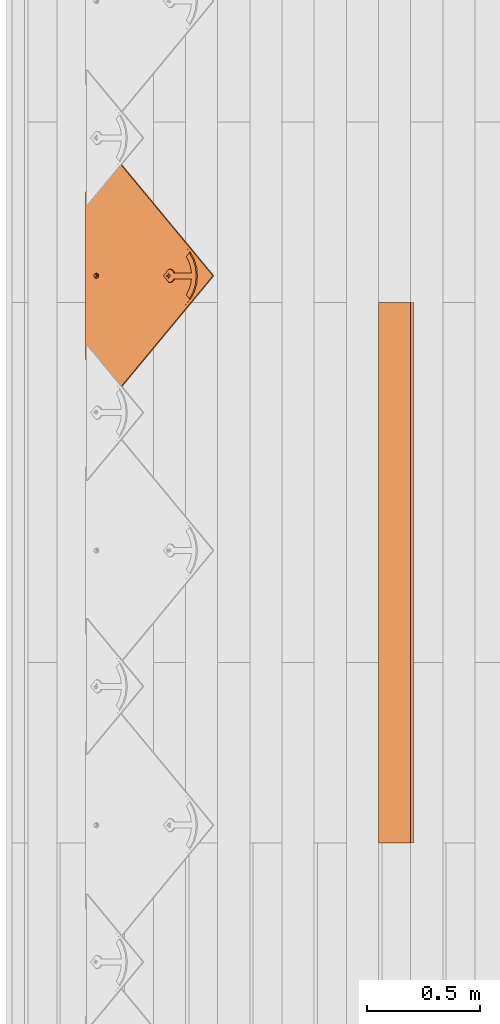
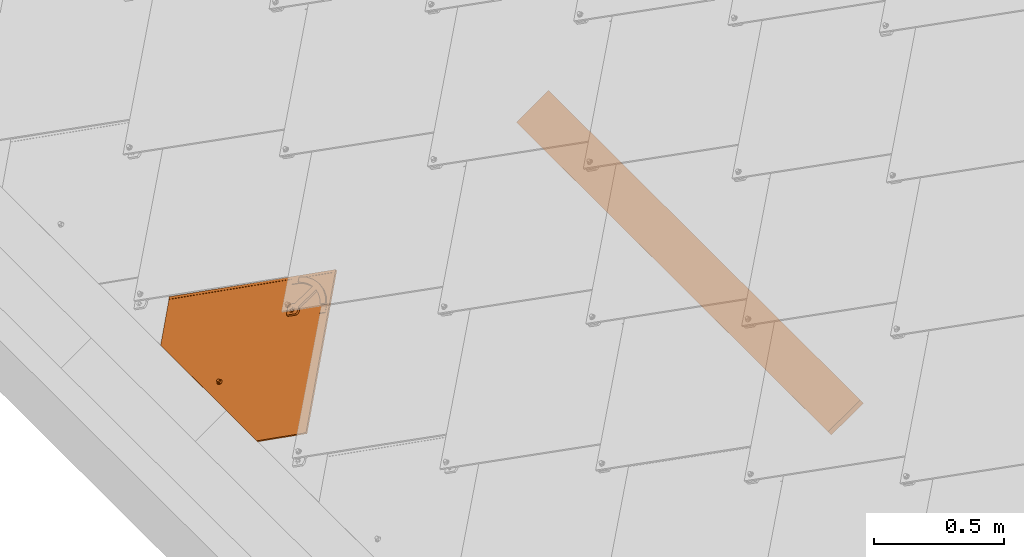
# One storey, part 26 of 133: 2 proxies, 1 element without a shape of its own.
"""IFC2X3 building model written with IfcOpenShell, lengths in millimetres."""

from ifc_helpers import new_model, entity, si_unit, converted_unit, derived_unit, direction, frame, frame_2d, origin, place, context, subcontext, project, spatial, rectangle, extrude, faceted_brep, source, transform, mapped, material, material_list, type_object, type_shapes, element, aggregate, save


model = new_model("IFC2X3")

# Units and contexts
model_context = context("Model", 3, precision=0.01, world=origin(), true_north=direction((6.12303176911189e-17, 1.0)))
body_context = subcontext(model_context, "Body", "Model", "MODEL_VIEW")
ifc_project = project(units=[si_unit("LENGTHUNIT", "METRE", prefix="MILLI"), si_unit("AREAUNIT", "SQUARE_METRE"), si_unit("VOLUMEUNIT", "CUBIC_METRE"), converted_unit("PLANEANGLEUNIT", "DEGREE", entity("IfcRatioMeasure", 0.0174532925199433), si_unit("PLANEANGLEUNIT", "RADIAN"), dimensions=[0, 0, 0, 0, 0, 0, 0]), si_unit("MASSUNIT", "GRAM", prefix="KILO"), derived_unit("MASSDENSITYUNIT", [(si_unit("MASSUNIT", "GRAM", prefix="KILO"), 1), (si_unit("LENGTHUNIT", "METRE"), -3)]), si_unit("TIMEUNIT", "SECOND"), si_unit("FREQUENCYUNIT", "HERTZ"), si_unit("THERMODYNAMICTEMPERATUREUNIT", "DEGREE_CELSIUS"), derived_unit("THERMALTRANSMITTANCEUNIT", [(si_unit("MASSUNIT", "GRAM", prefix="KILO"), 1), (si_unit("THERMODYNAMICTEMPERATUREUNIT", "KELVIN"), -1), (si_unit("TIMEUNIT", "SECOND"), -3)]), derived_unit("VOLUMETRICFLOWRATEUNIT", [(si_unit("LENGTHUNIT", "METRE"), 3), (si_unit("TIMEUNIT", "SECOND"), -1)]), si_unit("ELECTRICCURRENTUNIT", "AMPERE"), si_unit("ELECTRICVOLTAGEUNIT", "VOLT"), si_unit("POWERUNIT", "WATT"), si_unit("FORCEUNIT", "NEWTON", prefix="KILO"), si_unit("ILLUMINANCEUNIT", "LUX"), si_unit("LUMINOUSFLUXUNIT", "LUMEN"), si_unit("LUMINOUSINTENSITYUNIT", "CANDELA"), derived_unit("USERDEFINED", [(si_unit("MASSUNIT", "GRAM", prefix="KILO"), -1), (si_unit("LENGTHUNIT", "METRE"), -2), (si_unit("TIMEUNIT", "SECOND"), 3), (si_unit("LUMINOUSFLUXUNIT", "LUMEN"), 1)]), derived_unit("LINEARVELOCITYUNIT", [(si_unit("LENGTHUNIT", "METRE"), 1), (si_unit("TIMEUNIT", "SECOND"), -1)]), si_unit("PRESSUREUNIT", "PASCAL"), derived_unit("USERDEFINED", [(si_unit("LENGTHUNIT", "METRE"), -2), (si_unit("MASSUNIT", "GRAM", prefix="KILO"), 1), (si_unit("TIMEUNIT", "SECOND"), -2)])], contexts=[model_context])

# Site, building, storey
site_placement = place(None, origin())
site = spatial("IfcSite", under=ifc_project, at=site_placement, Name="Default", CompositionType="ELEMENT")
building_placement = place(site_placement, origin())
building = spatial("IfcBuilding", under=site, at=building_placement, CompositionType="ELEMENT")
storey_placement = place(building_placement, origin())
storey = spatial("IfcBuildingStorey", under=building, at=storey_placement, Name="Level 1", CompositionType="ELEMENT", Elevation=0.0)

# Assembly, proxy
assembly_placement = place(storey_placement, origin())
assembly = element("IfcElementAssembly", 1, at=assembly_placement, inside=storey, Name="Structural Framing Assembly:Roof Construction Assembly", ObjectType="Structural Framing Assembly:Roof Construction Assembly", AssemblyPlace="NOTDEFINED", PredefinedType="USERDEFINED")
ifc_material_1 = material(Name="Wood - Generic - Wood For Showcase")
building_element_proxy_type_1 = type_object("IfcBuildingElementProxyType", Name="Structural Framing 15", PredefinedType="NOTDEFINED", material=ifc_material_1)
shared_shape_1 = source(origin(), body_context, "Body", "SweptSolid", [
    extrude(rectangle(XDim=24.9999999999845, YDim=174.344679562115, at=frame_2d((-1.77635683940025e-13, -4.54747350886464e-13), x_axis=(0.0, 1.0))), frame((1128.20180147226, 1595.55080214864, 2760.23940055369), z_axis=(0.0, 1.0, 0.0), x_axis=(-0.819152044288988, 0.0, -0.573576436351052)), (0.0, 0.0, 1.0), 2400.00000000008),
])
type_shapes(building_element_proxy_type_1, [shared_shape_1])
proxy_1_placement = place(assembly_placement, frame((-2142.22201011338, -5740.0, -1500.0)))
proxy_1 = element("IfcBuildingElementProxy", 2, at=proxy_1_placement, type_object=building_element_proxy_type_1, material=ifc_material_1, Name="Structural Framing 92:Structural Framing 15", ObjectType="Structural Framing 92:Structural Framing 15", context=body_context, shape_type="MappedRepresentation", body=[
    mapped(shared_shape_1, transform((0.0, 0.0, 0.0), scale=1.0)),
])
aggregate(assembly, [proxy_1])

# Proxy
ifc_material_2 = material(Name="Rubber - Sunstyle - Black")
ifc_material_3 = material(Name="Glass - Sunstyle - Tainted Black")
ifc_material_list_1 = material_list([ifc_material_2, ifc_material_3])
ifc_material_list_2 = material_list([ifc_material_2, ifc_material_3])
building_element_proxy_type_2 = type_object("IfcBuildingElementProxyType", Name="Shingle Bottom - Black", PredefinedType="NOTDEFINED", material=ifc_material_list_2)
shared_shape_2 = source(origin(), body_context, "Body", "Brep", [
    faceted_brep([(0.0, -1.79273515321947, -4.01619789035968), (-5.7742028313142, -5.12600528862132, -3.96037390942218), (-5.77420283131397, -4.75769619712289, 18.0314954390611), (0.0, -1.42442606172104, 17.9756714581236), (-5.77420283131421, -11.792545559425, -3.84872594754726), (-5.77420283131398, -11.4242364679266, 18.143143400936), (0.0, -15.1258156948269, -3.79290196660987), (0.0, -14.7575066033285, 18.1989673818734), (5.77420283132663, -11.7925455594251, -3.84872594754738), (5.77420283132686, -11.4242364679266, 18.1431434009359), (5.77420283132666, -5.12600528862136, -3.96037390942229), (5.77420283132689, -4.75769619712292, 18.031495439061), (-8.60370416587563, -16.6934641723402, 18.2313898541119), (0.0, -20.2567354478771, 18.2910657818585), (-12.1674751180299, -8.09096633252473, 18.0873194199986), (-8.60370416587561, 0.511531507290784, 17.9432489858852), (0.0, 4.07480278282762, 17.8835730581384), (8.60370416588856, 0.511531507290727, 17.9432489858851), (12.1674751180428, -8.09096633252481, 18.0873194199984), (8.60370416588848, -16.6934641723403, 18.2313898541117), (-11.4302228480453, -6.71737066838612, 20.4858706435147), (-9.77051349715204, -8.02009729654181, 22.3189355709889), (0.0, -0.706876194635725, 22.9603444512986), (0.0, 0.533621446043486, 22.3799978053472), (0.0, 2.69117229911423, 21.3706227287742), (-6.32324569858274, -4.35709193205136, 23.021476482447), (-6.32324569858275, -11.6575234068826, 23.1437405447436), (0.0, -18.7571148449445, 21.7298281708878), (0.0, -15.3077391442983, 23.2048725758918), (10.9851748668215, -11.808022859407, 20.3827540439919), (10.123850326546, -8.02413622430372, 22.0777687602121), (6.32324569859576, -4.3570919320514, 23.0214764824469), (6.32324569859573, -11.6575234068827, 23.1437405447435), (-6.32324569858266, -11.5234949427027, 31.146628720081), (0.0, -15.1737106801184, 31.2077607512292), (0.0, -7.8732792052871, 31.0854966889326), (-6.32324569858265, -4.22306346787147, 31.0243646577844), (6.32324569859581, -11.5234949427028, 31.1466287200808), (6.32324569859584, -4.22306346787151, 31.0243646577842), (0.0, -0.57284773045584, 30.963232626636), (0.0, -8.45927542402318, -3.90454992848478)], [[[0, 1, 2, 3]], [[1, 4, 5, 2]], [[4, 6, 7, 5]], [[6, 8, 9, 7]], [[8, 10, 11, 9]], [[10, 0, 3, 11]], [[12, 7, 13]], [[7, 12, 5]], [[14, 5, 12]], [[5, 14, 2]], [[15, 2, 14]], [[3, 2, 15]], [[15, 16, 3]], [[16, 17, 3]], [[11, 3, 17]], [[11, 17, 18]], [[9, 11, 18]], [[18, 19, 9]], [[7, 9, 19]], [[19, 13, 7]], [[15, 20, 16]], [[21, 22, 23, 24]], [[22, 21, 25]], [[20, 14, 12]], [[15, 14, 20]], [[25, 21, 26]], [[20, 24, 16]], [[12, 13, 27]], [[12, 27, 20]], [[21, 28, 26]], [[21, 27, 28]], [[20, 21, 24]], [[20, 27, 21]], [[19, 29, 13]], [[30, 23, 31]], [[30, 28, 27]], [[24, 23, 30]], [[29, 27, 13]], [[19, 18, 29]], [[29, 30, 27]], [[29, 17, 24]], [[24, 17, 16]], [[31, 32, 30]], [[23, 22, 31]], [[28, 30, 32]], [[29, 24, 30]], [[29, 18, 17]], [[33, 34, 35]], [[35, 36, 33]], [[34, 37, 35]], [[38, 35, 37]], [[35, 38, 39]], [[35, 39, 36]], [[40, 6, 4]], [[4, 1, 40]], [[1, 0, 40]], [[40, 8, 6]], [[0, 10, 40]], [[8, 40, 10]], [[22, 25, 36, 39]], [[25, 26, 33, 36]], [[26, 28, 34, 33]], [[28, 32, 37, 34]], [[32, 31, 38, 37]], [[31, 22, 39, 38]]]),
    faceted_brep([(0.0, 372.824876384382, 20.3195200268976), (0.0, 377.324245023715, 20.2441667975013), (-8.60370416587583, 376.388147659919, 20.2598440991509), (8.60370416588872, 376.388147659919, 20.2598440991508), (6.64022859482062, 381.157445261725, 20.1799702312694), (12.1674751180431, 384.990645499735, 20.1157736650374), (6.64022859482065, 388.823845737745, 20.0515770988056), (8.6037041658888, 393.59314333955, 19.9717032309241), (0.0, 392.657045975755, 19.9873805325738), (0.0, 397.156414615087, 19.9120273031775), (-8.60370416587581, 393.59314333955, 19.9717032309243), (-6.64022859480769, 388.823845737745, 20.0515770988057), (-12.1674751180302, 384.990645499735, 20.1157736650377), (-6.6402285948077, 381.157445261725, 20.1799702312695), (-6.6402282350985, 388.555922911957, 4.05382046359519), (0.0, 392.389122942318, 3.98962390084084), (-6.64022823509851, 380.889522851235, 4.18221358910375), (0.0, 377.056322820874, 4.24641015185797), (6.64022823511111, 380.889522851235, 4.18221358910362), (6.64022823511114, 388.555922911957, 4.05382046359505), (-8.603704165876, 376.12022504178, 4.26208746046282), (0.0, 372.556953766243, 4.32176338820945), (-12.1674751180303, 384.722722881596, 4.11801702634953), (-8.60370416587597, 393.325220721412, 3.97394659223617), (0.0, 396.888491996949, 3.91427066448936), (8.60370416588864, 393.325220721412, 3.97394659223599), (12.1674751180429, 384.722722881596, 4.11801702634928), (8.60370416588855, 376.12022504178, 4.26208746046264)], [[[0, 1, 2]], [[1, 0, 3]], [[3, 4, 1]], [[4, 3, 5]], [[6, 4, 5]], [[5, 7, 6]], [[7, 8, 6]], [[8, 7, 9]], [[8, 9, 10]], [[10, 11, 8]], [[12, 11, 10]], [[2, 13, 12]], [[12, 13, 11]], [[13, 2, 1]], [[8, 11, 14, 15]], [[11, 13, 16, 14]], [[13, 1, 17, 16]], [[1, 4, 18, 17]], [[4, 6, 19, 18]], [[6, 8, 15, 19]], [[20, 17, 21]], [[17, 20, 16]], [[22, 16, 20]], [[14, 16, 22]], [[23, 14, 22]], [[15, 14, 23]], [[23, 24, 15]], [[24, 25, 15]], [[19, 15, 25]], [[19, 25, 26]], [[26, 18, 19]], [[26, 27, 18]], [[17, 18, 27]], [[27, 21, 17]], [[24, 23, 10, 9]], [[10, 23, 22, 12]], [[20, 21, 0, 2]], [[20, 2, 12, 22]], [[21, 27, 3, 0]], [[3, 27, 26, 5]], [[25, 24, 9, 7]], [[25, 7, 5, 26]]]),
    faceted_brep([(518.247351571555, 79.9143812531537, 14.965257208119), (526.732038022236, 88.3990677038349, 14.8231598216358), (526.732038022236, 88.4241854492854, 16.3229495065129), (518.247351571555, 79.9394989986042, 16.4650468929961), (0.000322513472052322, 598.016093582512, 6.28834266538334), (-518.246706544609, 79.9143812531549, 14.9652572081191), (-526.73139299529, 88.3990677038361, 14.8231598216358), (0.000322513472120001, 614.983087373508, 6.00418773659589), (0.000322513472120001, 615.008205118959, 7.50397742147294), (-526.731392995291, 88.4241854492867, 16.3229495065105), (-518.246706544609, 79.9394989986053, 16.465046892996), (0.000322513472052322, 598.041211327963, 7.78813235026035)], [[[0, 1, 2, 3]], [[1, 0, 4, 5, 6, 7]], [[2, 1, 7, 8]], [[3, 2, 8, 9, 10, 11]], [[0, 3, 11, 4]], [[5, 10, 9, 6]], [[8, 7, 6, 9]], [[4, 11, 10, 5]]]),
    faceted_brep([(0.00032251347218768, 614.983087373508, 6.00418773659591), (-2.87802047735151, 396.187349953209, 9.66847193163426), (0.227808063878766, 396.596182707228, 9.6616250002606), (-5.77219193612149, 394.988712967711, 9.68854611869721), (3.3336366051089, 396.187349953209, 9.66847193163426), (6.22780806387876, 394.988712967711, 9.6885461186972), (8.71308943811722, 393.081956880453, 9.72047953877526), (10.620112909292, 390.59702396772, 9.76209598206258), (-8.25747331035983, 393.081956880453, 9.72047953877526), (-10.1644967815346, 390.59702396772, 9.76209598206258), (-11.3633018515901, 387.703258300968, 9.81055935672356), (-526.731392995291, 88.3990677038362, 14.8231598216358), (11.8189179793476, 387.703258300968, 9.81055935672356), (526.732038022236, 88.3990677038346, 14.8231598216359), (-11.7721919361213, 384.597865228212, 9.86256696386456), (-11.3633018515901, 381.492472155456, 9.91457457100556), (-10.1644967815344, 378.598706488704, 9.96303794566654), (-370.355016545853, -67.9334607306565, 17.4413406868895), (-8.25747331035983, 376.113773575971, 10.0046543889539), (-5.65685424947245, -2.29422365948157, 16.3420467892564), (-6.92820323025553, -3.95084560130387, 16.3697910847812), (-7.72740661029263, -5.88002271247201, 16.4021000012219), (-8.0, -7.95028476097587, 16.4367717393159), (-7.72740661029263, -10.0205468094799, 16.4714434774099), (-6.9282032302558, -11.9497239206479, 16.5037523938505), (-5.65685424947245, -13.6063458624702, 16.5314966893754), (-4.0, -14.8775165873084, 16.5527856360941), (-2.07055236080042, -15.676607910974, 16.5661684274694), (0.0, -15.9491630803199, 16.5707330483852), (370.355661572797, -67.9334607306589, 17.4413406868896), (10.620112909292, 378.598706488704, 9.96303794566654), (8.71308943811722, 376.11377357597, 10.0046543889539), (5.65685424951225, -2.29422365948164, 16.3420467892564), (6.92820323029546, -3.9508456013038, 16.3697910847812), (7.72740661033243, -5.88002271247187, 16.4021000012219), (8.0, -7.9502847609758, 16.4367717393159), (7.72740661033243, -10.0205468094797, 16.4714434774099), (6.92820323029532, -11.9497239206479, 16.5037523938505), (5.65685424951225, -13.6063458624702, 16.5314966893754), (4.0, -14.8775165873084, 16.5527856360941), (2.07055236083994, -15.676607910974, 16.5661684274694), (-5.77219193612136, 374.207017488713, 10.0365878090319), (-4.0, -1.02305293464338, 16.3207578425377), (-2.87802047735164, 373.008380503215, 10.0566619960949), (-2.07055236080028, -0.223961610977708, 16.3073750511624), (0.227808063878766, 372.599547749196, 10.0635089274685), (0.0, 0.0485935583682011, 16.3028104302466), (2.07055236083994, -0.223961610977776, 16.3073750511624), (3.3336366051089, 373.008380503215, 10.0566619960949), (4.0, -1.02305293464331, 16.3207578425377), (6.22780806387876, 374.207017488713, 10.0365878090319), (12.2278080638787, 384.597865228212, 9.86256696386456), (11.8189179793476, 381.492472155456, 9.91457457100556), (-370.355016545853, -68.059049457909, 9.94239226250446), (-6.92820323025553, -4.07643432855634, 8.87084266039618), (-7.72740661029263, -6.00561143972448, 8.90315157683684), (-8.0, -8.07587348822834, 8.93782331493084), (-7.72740661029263, -10.1461355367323, 8.97249505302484), (-6.9282032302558, -12.0753126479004, 9.00480396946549), (-5.65685424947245, -13.7319345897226, 9.03254826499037), (-5.65685424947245, -2.41981238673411, 8.8430983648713), (-8.25747331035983, 375.988184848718, 2.50570596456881), (-4.0, -15.0031053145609, 9.05383721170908), (-2.07055236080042, -15.8021966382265, 9.06722000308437), (0.0, -16.0747518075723, 9.07178462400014), (370.355661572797, -68.0590494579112, 9.9423922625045), (-10.1644967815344, 378.473117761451, 2.46408952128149), (-526.731392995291, 88.2734789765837, 7.32421139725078), (-11.3633018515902, 381.366883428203, 2.41562614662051), (-11.7721919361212, 384.472276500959, 2.36361853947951), (-11.3633018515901, 387.577669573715, 2.3116109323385), (0.00032251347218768, 614.857498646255, -1.49476068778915), (-10.1644967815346, 390.471435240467, 2.26314755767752), (-8.25747331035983, 392.956368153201, 2.22153111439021), (-5.77219193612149, 394.863124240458, 2.18959769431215), (-2.87802047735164, 396.061761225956, 2.16952350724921), (0.227808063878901, 396.470593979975, 2.16267657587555), (3.3336366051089, 396.061761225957, 2.1695235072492), (6.22780806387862, 394.863124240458, 2.18959769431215), (8.71308943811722, 392.956368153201, 2.2215311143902), (10.620112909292, 390.471435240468, 2.26314755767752), (11.8189179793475, 387.577669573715, 2.31161093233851), (526.732038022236, 88.2734789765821, 7.32421139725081), (12.2278080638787, 384.472276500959, 2.3636185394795), (10.620112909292, 378.473117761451, 2.46408952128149), (11.8189179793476, 381.366883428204, 2.41562614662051), (-5.77219193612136, 374.08142876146, 2.53763938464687), (-4.0, -1.14864166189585, 8.8218094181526), (-2.87802047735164, 372.882791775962, 2.55771357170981), (-2.07055236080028, -0.349550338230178, 8.8084266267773), (0.227808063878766, 372.473959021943, 2.56456050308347), (0.0, -0.0769951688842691, 8.80386200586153), (2.07055236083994, -0.349550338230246, 8.8084266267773), (3.3336366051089, 372.882791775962, 2.55771357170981), (4.0, -1.14864166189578, 8.8218094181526), (6.22780806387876, 374.081428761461, 2.53763938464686), (5.65685424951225, -2.41981238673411, 8.8430983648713), (8.71308943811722, 375.988184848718, 2.50570596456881), (6.92820323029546, -4.07643432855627, 8.87084266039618), (7.72740661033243, -6.00561143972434, 8.90315157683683), (8.0, -8.07587348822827, 8.93782331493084), (7.72740661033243, -10.1461355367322, 8.97249505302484), (6.92820323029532, -12.0753126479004, 9.00480396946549), (5.65685424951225, -13.7319345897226, 9.03254826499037), (4.0, -15.0031053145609, 9.05383721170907), (2.07055236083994, -15.8021966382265, 9.06722000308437)], [[[0, 1, 2]], [[1, 0, 3]], [[0, 2, 4]], [[4, 5, 0]], [[5, 6, 0]], [[0, 6, 7]], [[8, 3, 0]], [[9, 8, 0]], [[9, 0, 10]], [[10, 0, 11]], [[12, 0, 7]], [[12, 13, 0]], [[11, 14, 10]], [[14, 11, 15]], [[16, 15, 11]], [[11, 17, 16]], [[16, 17, 18]], [[19, 18, 17]], [[19, 17, 20]], [[20, 17, 21]], [[22, 21, 17]], [[22, 17, 23]], [[24, 23, 17]], [[17, 25, 24]], [[26, 25, 17]], [[27, 26, 17]], [[17, 28, 27]], [[28, 17, 29]], [[29, 13, 30]], [[29, 30, 31]], [[29, 31, 32]], [[32, 33, 29]], [[33, 34, 29]], [[35, 29, 34]], [[29, 35, 36]], [[36, 37, 29]], [[29, 37, 38]], [[38, 39, 29]], [[40, 28, 29]], [[39, 40, 29]], [[41, 18, 19]], [[42, 41, 19]], [[42, 43, 41]], [[44, 43, 42]], [[44, 45, 43]], [[46, 45, 44]], [[47, 45, 46]], [[48, 45, 47]], [[49, 48, 47]], [[49, 50, 48]], [[32, 50, 49]], [[32, 31, 50]], [[12, 51, 13]], [[52, 13, 51]], [[13, 52, 30]], [[53, 54, 55]], [[53, 55, 56]], [[56, 57, 53]], [[57, 58, 53]], [[53, 58, 59]], [[60, 54, 53]], [[61, 60, 53]], [[59, 62, 53]], [[62, 63, 53]], [[63, 64, 53]], [[53, 64, 65]], [[66, 61, 53]], [[66, 53, 67]], [[68, 66, 67]], [[69, 68, 67]], [[69, 67, 70]], [[67, 71, 70]], [[72, 70, 71]], [[73, 72, 71]], [[71, 74, 73]], [[74, 71, 75]], [[75, 71, 76]], [[77, 76, 71]], [[77, 71, 78]], [[79, 78, 71]], [[71, 80, 79]], [[80, 71, 81]], [[71, 82, 81]], [[83, 81, 82]], [[84, 82, 65]], [[85, 82, 84]], [[82, 85, 83]], [[86, 60, 61]], [[86, 87, 60]], [[88, 87, 86]], [[89, 87, 88]], [[90, 89, 88]], [[90, 91, 89]], [[92, 91, 90]], [[92, 90, 93]], [[94, 92, 93]], [[93, 95, 94]], [[94, 95, 96]], [[97, 96, 95]], [[96, 97, 65]], [[84, 65, 97]], [[98, 96, 65]], [[99, 98, 65]], [[99, 65, 100]], [[101, 100, 65]], [[102, 101, 65]], [[103, 102, 65]], [[104, 103, 65]], [[105, 104, 65]], [[65, 64, 105]], [[11, 0, 71, 67]], [[17, 11, 67, 53]], [[13, 29, 65, 82]], [[0, 13, 82, 71]], [[22, 56, 55, 21]], [[21, 55, 54, 20]], [[42, 19, 60, 87]], [[60, 19, 20, 54]], [[44, 42, 87, 89]], [[44, 89, 91, 46]], [[46, 91, 92, 47]], [[47, 92, 94, 49]], [[33, 32, 96, 98]], [[96, 32, 49, 94]], [[34, 33, 98, 99]], [[34, 99, 100, 35]], [[35, 100, 101, 36]], [[36, 101, 102, 37]], [[39, 38, 103, 104]], [[103, 38, 37, 102]], [[40, 39, 104, 105]], [[40, 105, 64, 28]], [[28, 64, 63, 27]], [[27, 63, 62, 26]], [[24, 25, 59, 58]], [[59, 25, 26, 62]], [[23, 24, 58, 57]], [[23, 57, 56, 22]], [[14, 69, 70, 10]], [[10, 70, 72, 9]], [[3, 8, 73, 74]], [[73, 8, 9, 72]], [[1, 3, 74, 75]], [[1, 75, 76, 2]], [[2, 76, 77, 4]], [[4, 77, 78, 5]], [[7, 6, 79, 80]], [[79, 6, 5, 78]], [[12, 7, 80, 81]], [[12, 81, 83, 51]], [[51, 83, 85, 52]], [[52, 85, 84, 30]], [[50, 31, 97, 95]], [[97, 31, 30, 84]], [[48, 50, 95, 93]], [[48, 93, 90, 45]], [[45, 90, 88, 43]], [[43, 88, 86, 41]], [[16, 18, 61, 66]], [[41, 86, 61, 18]], [[68, 15, 16, 66]], [[15, 68, 69, 14]], [[29, 17, 53, 65]]]),
    faceted_brep([(-111.269043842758, 451.472531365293, 11.2429332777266), (-84.9443960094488, 477.793488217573, 10.8021227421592), (-102.027571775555, 494.874268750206, 10.5160621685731), (-108.279973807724, 489.512620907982, 10.6058564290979), (-114.2509690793, 483.839345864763, 10.7008696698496), (-128.946713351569, 469.147722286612, 10.9469178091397), (128.946713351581, 469.147722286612, 10.9469178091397), (114.250969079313, 483.839345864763, 10.7008696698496), (108.279973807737, 489.512620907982, 10.6058564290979), (102.027571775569, 494.874268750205, 10.5160621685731), (84.9431983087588, 477.794685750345, 10.802102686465), (111.269043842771, 451.472531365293, 11.2429332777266), (-8.48528137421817, 393.302959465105, 19.7181805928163), (-18.7041061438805, 407.484939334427, 19.4806677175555), (-23.2046504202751, 402.851933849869, 19.5582590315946), (-10.3923048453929, 390.818026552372, 19.7597970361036), (-6.0, 395.209715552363, 19.6862471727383), (-13.2999999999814, 411.02298750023, 19.4214142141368), (-3.10582854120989, 396.408352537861, 19.6661729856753), (0.0, 396.81718529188, 19.6593260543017), (13.3000000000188, 411.022987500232, 19.4214142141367), (3.10582854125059, 396.408352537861, 19.6661729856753), (6.0, 395.209715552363, 19.6862471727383), (18.7041061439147, 407.484939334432, 19.4806677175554), (8.48528137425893, 393.302959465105, 19.7181805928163), (23.2046504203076, 402.85193384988, 19.5582590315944), (10.3923048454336, 390.818026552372, 19.7597970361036), (26.5842195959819, 397.347783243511, 19.6504398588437), (11.5911099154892, 387.92426088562, 19.8082604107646), (28.6795527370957, 391.238383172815, 19.752757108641), (12.0, 384.818867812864, 19.8602680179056), (29.3894280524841, 384.818867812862, 19.8602680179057), (11.5911099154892, 381.713474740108, 19.9122756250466), (10.3923048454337, 378.819709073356, 19.9607389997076), (8.48528137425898, 376.334776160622, 20.0023554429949), (0.0, 355.433560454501, 20.3523987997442), (6.0, 374.428020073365, 20.034288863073), (3.10582854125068, 373.229383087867, 20.0543630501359), (0.0, 372.820550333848, 20.0612099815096), (-3.10582854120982, 373.229383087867, 20.0543630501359), (-6.0, 374.428020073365, 20.034288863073), (-8.48528137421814, 376.334776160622, 20.0023554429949), (-29.3894280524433, 384.818867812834, 19.8602680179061), (-10.3923048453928, 378.819709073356, 19.9607389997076), (-11.5911099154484, 381.713474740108, 19.9122756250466), (-12.0, 384.818867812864, 19.8602680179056), (-28.67955273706, 391.238383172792, 19.7527571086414), (-11.5911099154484, 387.92426088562, 19.8082604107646), (-26.5842195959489, 397.347783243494, 19.650439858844), (-13.2999999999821, 505.810987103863, 17.833951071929), (13.3000000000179, 505.810987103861, 17.833951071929), (0.0, 531.282600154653, 17.4073649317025), (36.4908407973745, 527.108634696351, 17.4772684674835), (38.7697427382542, 500.996106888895, 17.9145883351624), (71.096085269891, 514.802420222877, 17.6833669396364), (62.9243331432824, 491.592473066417, 18.0720758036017), (102.027571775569, 494.999857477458, 18.0150105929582), (84.9443960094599, 477.919076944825, 18.3010711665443), (-36.4908407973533, 527.108634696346, 17.4772684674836), (-38.7697427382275, 500.996106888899, 17.9145883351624), (-71.0960852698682, 514.802420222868, 17.6833669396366), (-62.9243331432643, 491.592473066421, 18.0720758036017), (-102.027571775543, 494.999857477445, 18.0150105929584), (-84.9443960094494, 477.919076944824, 18.3010711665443), (0.0, 355.266108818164, 10.3538009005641), (0.0, 372.653098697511, 10.0626120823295), (3.10582854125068, 373.06193145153, 10.0557651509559), (-3.10582854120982, 373.06193145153, 10.0557651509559), (6.0, 374.260568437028, 10.0356909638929), (8.48528137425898, 376.167324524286, 10.0037575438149), (29.3894280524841, 384.651416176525, 9.86167011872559), (-6.0, 374.260568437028, 10.0356909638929), (-8.48528137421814, 376.167324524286, 10.0037575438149), (-29.3894280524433, 384.651416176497, 9.86167011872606), (-10.3923048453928, 378.652257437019, 9.96214110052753), (-11.5911099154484, 381.546023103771, 9.91367772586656), (-12.0, 384.651416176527, 9.86167011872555), (-28.67955273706, 391.070931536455, 9.75415920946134), (-11.5911099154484, 387.756809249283, 9.80966251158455), (-26.5842195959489, 397.180331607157, 9.65184195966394), (-10.3923048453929, 390.650574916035, 9.76119913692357), (-23.2046504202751, 402.684482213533, 9.5596611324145), (-8.48528137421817, 393.135507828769, 9.71958269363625), (-18.7041061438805, 407.31748769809, 9.48206981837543), (-6.0, 395.042263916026, 9.6876492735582), (-13.2999999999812, 410.855535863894, 9.4228163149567), (-3.10582854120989, 396.240900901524, 9.66757508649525), (0.0, 396.649733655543, 9.66072815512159), (13.3000000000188, 410.855535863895, 9.42281631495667), (-13.2999999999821, 505.643535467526, 7.83535317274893), (13.3000000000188, 505.643535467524, 7.83535317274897), (0.0, 531.115148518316, 7.4087670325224), (-36.4908407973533, 526.94118306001, 7.47867056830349), (-38.7697427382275, 500.828655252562, 7.91599043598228), (-71.0960852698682, 514.634968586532, 7.68476904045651), (-62.9243331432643, 491.425021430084, 8.07347790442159), (-102.027571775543, 494.832405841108, 8.01641269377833), (-84.9431983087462, 477.752822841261, 8.30245321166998), (-108.279973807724, 489.470757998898, 8.10620695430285), (-114.2509690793, 483.79748295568, 8.2012201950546), (-111.269043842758, 451.430668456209, 8.74328380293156), (-128.946713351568, 469.105859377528, 8.44726833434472), (36.4908407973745, 526.941183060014, 7.47867056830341), (38.7697427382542, 500.828655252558, 7.91599043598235), (71.096085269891, 514.634968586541, 7.68476904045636), (62.9243331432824, 491.425021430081, 8.07347790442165), (102.027571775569, 494.832405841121, 8.01641269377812), (84.9443960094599, 477.751625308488, 8.30247326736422), (108.279973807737, 489.470757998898, 8.10620695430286), (114.250969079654, 483.797482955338, 8.20122019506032), (111.269043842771, 451.430668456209, 8.74328380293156), (128.946713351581, 469.105859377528, 8.44726833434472), (3.10582854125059, 396.240900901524, 9.66757508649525), (6.0, 395.042263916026, 9.6876492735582), (18.7041061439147, 407.317487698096, 9.48206981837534), (8.48528137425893, 393.135507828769, 9.71958269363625), (23.2046504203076, 402.684482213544, 9.55966113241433), (10.3923048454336, 390.650574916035, 9.76119913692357), (26.5842195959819, 397.180331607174, 9.65184195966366), (11.5911099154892, 387.756809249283, 9.80966251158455), (28.6795527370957, 391.070931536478, 9.75415920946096), (12.0, 384.651416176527, 9.86167011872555), (11.5911099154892, 381.546023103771, 9.91367772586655), (10.3923048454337, 378.652257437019, 9.96214110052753)], [[[0, 1, 2, 3, 4, 5]], [[6, 7, 8, 9, 10, 11]], [[12, 13, 14]], [[15, 12, 14]], [[16, 13, 12]], [[13, 16, 17]], [[17, 16, 18]], [[18, 19, 17]], [[20, 17, 19]], [[19, 21, 20]], [[22, 20, 21]], [[22, 23, 20]], [[22, 24, 23]], [[25, 23, 24]], [[26, 25, 24]], [[25, 26, 27]], [[26, 28, 27]], [[29, 27, 28]], [[28, 30, 29]], [[31, 29, 30]], [[30, 32, 31]], [[32, 33, 31]], [[31, 33, 34]], [[34, 35, 31]], [[34, 36, 35]], [[37, 35, 36]], [[38, 35, 37]], [[35, 38, 39]], [[40, 35, 39]], [[40, 41, 35]], [[42, 35, 41]], [[43, 42, 41]], [[43, 44, 42]], [[44, 45, 42]], [[45, 46, 42]], [[46, 45, 47]], [[48, 46, 47]], [[47, 15, 48]], [[48, 15, 14]], [[20, 49, 17]], [[49, 20, 50]], [[51, 49, 50]], [[50, 52, 51]], [[53, 52, 50]], [[52, 53, 54]], [[55, 54, 53]], [[54, 55, 56]], [[55, 57, 56]], [[58, 49, 51]], [[49, 58, 59]], [[60, 59, 58]], [[60, 61, 59]], [[61, 60, 62]], [[61, 62, 63]], [[64, 65, 66]], [[65, 64, 67]], [[64, 66, 68]], [[68, 69, 64]], [[64, 69, 70]], [[71, 67, 64]], [[71, 64, 72]], [[72, 64, 73]], [[73, 74, 72]], [[74, 73, 75]], [[76, 75, 73]], [[77, 76, 73]], [[76, 77, 78]], [[78, 77, 79]], [[80, 78, 79]], [[81, 80, 79]], [[82, 80, 81]], [[81, 83, 82]], [[83, 84, 82]], [[84, 83, 85]], [[85, 86, 84]], [[87, 86, 85]], [[87, 85, 88]], [[88, 85, 89]], [[88, 89, 90]], [[89, 91, 90]], [[91, 89, 92]], [[93, 92, 89]], [[94, 92, 93]], [[93, 95, 94]], [[95, 96, 94]], [[97, 96, 95]], [[98, 96, 97]], [[99, 98, 97]], [[97, 100, 99]], [[101, 99, 100]], [[102, 90, 91]], [[90, 102, 103]], [[104, 103, 102]], [[103, 104, 105]], [[105, 104, 106]], [[107, 105, 106]], [[107, 106, 108]], [[109, 107, 108]], [[110, 107, 109]], [[111, 110, 109]], [[87, 88, 112]], [[113, 112, 88]], [[114, 113, 88]], [[115, 113, 114]], [[115, 114, 116]], [[116, 117, 115]], [[116, 118, 117]], [[117, 118, 119]], [[119, 118, 120]], [[121, 119, 120]], [[120, 70, 121]], [[122, 121, 70]], [[70, 69, 123]], [[123, 122, 70]], [[17, 49, 89, 85]], [[13, 17, 85, 83]], [[14, 13, 83, 81]], [[81, 79, 48, 14]], [[46, 48, 79, 77]], [[42, 46, 77, 73]], [[35, 42, 73, 64]], [[31, 35, 64, 70]], [[29, 31, 70, 120]], [[27, 29, 120, 118]], [[118, 116, 25, 27]], [[23, 25, 116, 114]], [[20, 23, 114, 88]], [[50, 20, 88, 90]], [[9, 106, 104, 54, 56]], [[52, 54, 104, 102]], [[51, 52, 102, 91]], [[58, 51, 91, 92]], [[94, 96, 2, 62, 60]], [[60, 58, 92, 94]], [[45, 76, 78, 47]], [[47, 78, 80, 15]], [[16, 12, 82, 84]], [[80, 82, 12, 15]], [[18, 16, 84, 86]], [[87, 19, 18, 86]], [[21, 112, 113, 22]], [[22, 113, 115, 24]], [[28, 26, 117, 119]], [[115, 117, 26, 24]], [[30, 28, 119, 121]], [[21, 19, 87, 112]], [[30, 121, 122, 32]], [[32, 122, 123, 33]], [[36, 34, 69, 68]], [[123, 69, 34, 33]], [[37, 36, 68, 66]], [[65, 38, 37, 66]], [[39, 67, 71, 40]], [[40, 71, 72, 41]], [[44, 43, 74, 75]], [[72, 74, 43, 41]], [[45, 44, 75, 76]], [[39, 38, 65, 67]], [[7, 6, 111, 109]], [[6, 11, 110, 111]], [[7, 109, 108, 8]], [[108, 106, 9, 8]], [[11, 10, 107, 110]], [[0, 5, 101, 100]], [[1, 0, 100, 97]], [[2, 96, 98, 3]], [[98, 99, 4, 3]], [[5, 4, 99, 101]], [[63, 62, 2, 1]], [[56, 57, 10]], [[10, 9, 56]], [[1, 95, 61, 63]], [[1, 97, 95]], [[93, 89, 49, 59]], [[95, 93, 59, 61]], [[90, 103, 53, 50]], [[103, 105, 55, 53]], [[10, 57, 55]], [[107, 10, 105]], [[55, 105, 10]]]),
])
type_shapes(building_element_proxy_type_2, [shared_shape_2])
proxy_2_placement = place(storey_placement, frame((-2327.24013143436, -1626.72006788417, 355.972593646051), z_axis=(-0.57357643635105, 0.0, 0.819152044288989), x_axis=(0.0, -1.0, 0.0)))
element("IfcBuildingElementProxy", 3, at=proxy_2_placement, inside=storey, type_object=building_element_proxy_type_2, material=ifc_material_list_1, Name="Roofing_Panels_SunStyle_Tile_Shingle-Bottom:Shingle Bottom - Black", ObjectType="Roofing_Panels_SunStyle_Tile_Shingle-Bottom:Shingle Bottom - Black", context=body_context, shape_type="MappedRepresentation", body=[
    mapped(shared_shape_2, transform((0.0, 0.0, 0.0), scale=1.0)),
])

save(model, "model.ifc")
